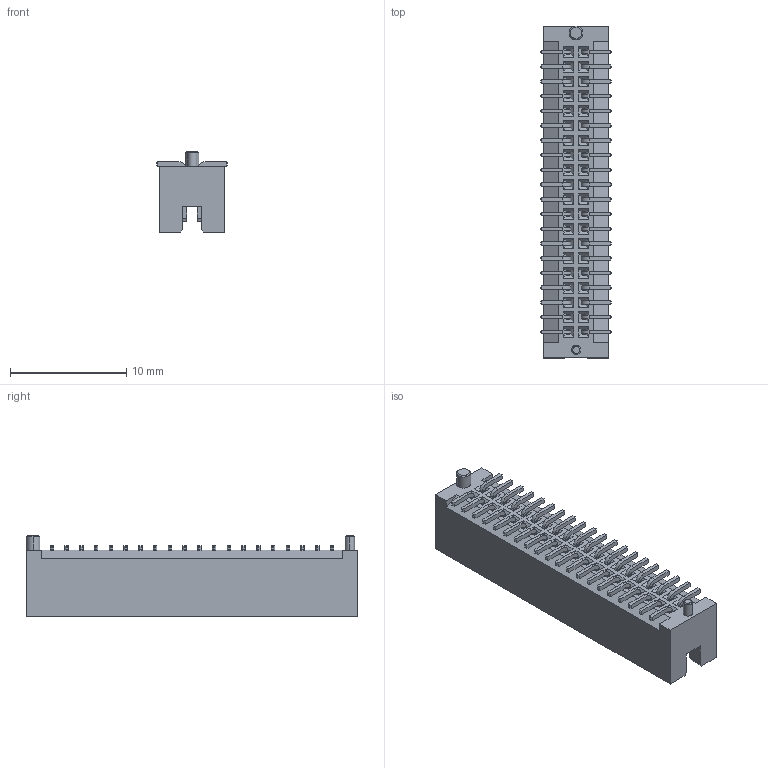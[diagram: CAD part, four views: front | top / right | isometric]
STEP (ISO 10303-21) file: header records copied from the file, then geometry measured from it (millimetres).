
FILE_DESCRIPTION (( 'STEP AP214' ), '1' );
FILE_NAME ('2216-40C00DPT.STEP', '2018-07-06T02:21:28', ( 'ADMIN' ), ( '' ), 'SwSTEP 2.0', 'SolidWorks 2011', '' );
FILE_SCHEMA (( 'AUTOMOTIVE_DESIGN' ));
Length unit declared in the file: millimetre
Products named in the file (3): 2216S3-1; 2216-40C00DPT; 2216-40B-1
Assembly tree (41 placements, depth 2):
  2216-40C00DPT
    2216S3-1  x40
    2216-40B-1
Bounding box: 6.1 x 28.6 x 6.97 mm (x, y, z)
Volume: 549.9 mm3; surface area: 1329.3 mm2
Topology: 81 solids, 81 shells, 1486 faces, 3521 edges, 2238 vertices
Faces by surface type: plane 1238, cylinder 244, cone 4
Entity records: 16446 total; most frequent: CARTESIAN_POINT 2111, ORIENTED_EDGE 1972, DIRECTION 1957, EDGE_CURVE 986, LINE 961, VECTOR 961, VERTEX_POINT 600, AXIS2_PLACEMENT_3D 498
